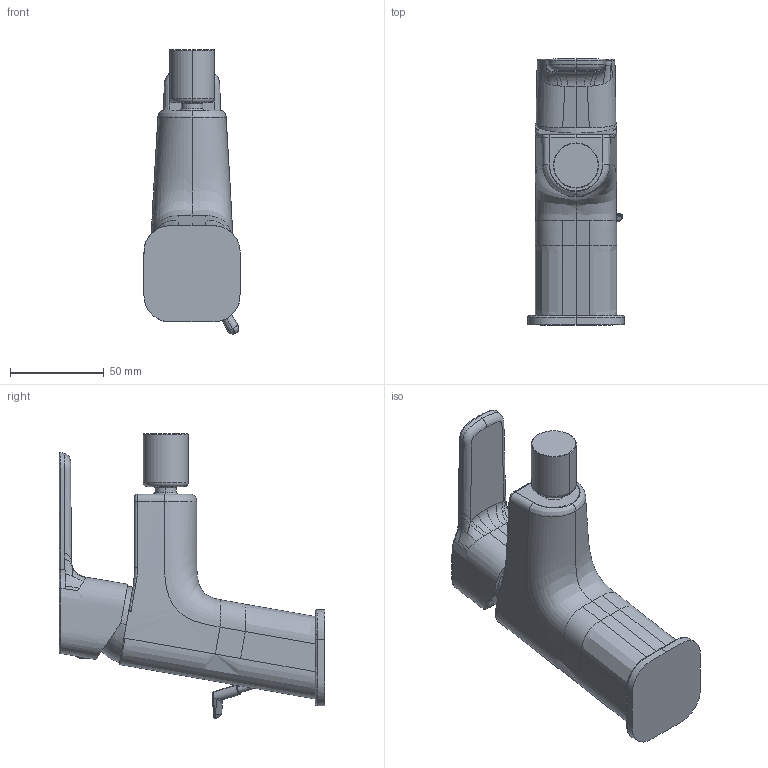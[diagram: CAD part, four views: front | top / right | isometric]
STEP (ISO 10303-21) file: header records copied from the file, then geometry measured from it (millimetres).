
FILE_DESCRIPTION((''),'2;1');
FILE_NAME('13_411_041_XXX','2018-07-19T',('ES997'),(''),'CREO PARAMETRIC BY PTC INC, 2016260','CREO PARAMETRIC BY PTC INC, 2016260','');
FILE_SCHEMA(('CONFIG_CONTROL_DESIGN'));
Length unit declared in the file: millimetre
Products named in the file (1): 13_411_041_XXX
Bounding box: 51.31 x 141.39 x 151.27 mm (x, y, z)
Volume: 329298.4 mm3; surface area: 42866.4 mm2
Topology: 1 solids, 1 shells, 182 faces, 450 edges, 277 vertices
Faces by surface type: bspline 93, cylinder 36, plane 20, torus 12, extrusion 10, cone 7, sphere 4
Entity records: 20880 total; most frequent: CARTESIAN_POINT 17386, ORIENTED_EDGE 898, EDGE_CURVE 449, DIRECTION 409, B_SPLINE_CURVE_WITH_KNOTS 303, VERTEX_POINT 277, EDGE_LOOP 190, FACE_OUTER_BOUND 182
